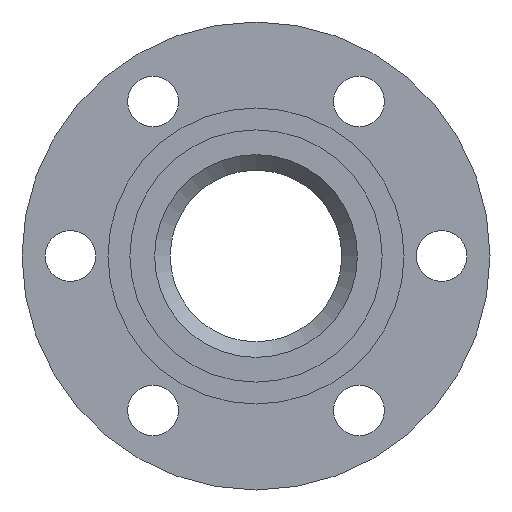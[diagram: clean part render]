
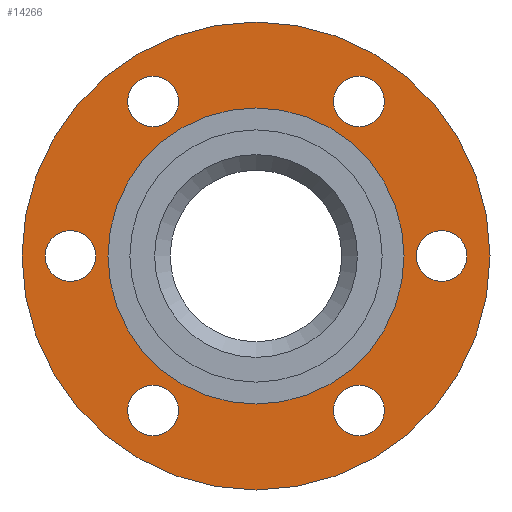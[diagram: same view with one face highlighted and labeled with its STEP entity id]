
A CAD part, front view. The second image highlights one B-rep face of the part: STEP entity #14266.
In plain terms, the highlighted planar face has unit normal (0, -1, 0).
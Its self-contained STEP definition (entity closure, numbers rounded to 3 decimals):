
#133=FACE_BOUND('',#5342,.T.);
#134=FACE_BOUND('',#5343,.T.);
#135=FACE_BOUND('',#5344,.T.);
#136=FACE_BOUND('',#5345,.T.);
#137=FACE_BOUND('',#5346,.T.);
#138=FACE_BOUND('',#5347,.T.);
#139=FACE_BOUND('',#5348,.T.);
#433=PLANE('',#14973);
#4492=FACE_OUTER_BOUND('',#5341,.T.);
#5341=EDGE_LOOP('',(#13352));
#5342=EDGE_LOOP('',(#13353));
#5343=EDGE_LOOP('',(#13354));
#5344=EDGE_LOOP('',(#13355));
#5345=EDGE_LOOP('',(#13356));
#5346=EDGE_LOOP('',(#13357));
#5347=EDGE_LOOP('',(#13358));
#5348=EDGE_LOOP('',(#13359));
#5658=CIRCLE('',#14931,3.25);
#5660=CIRCLE('',#14934,3.25);
#5662=CIRCLE('',#14937,3.25);
#5664=CIRCLE('',#14940,3.25);
#5666=CIRCLE('',#14943,3.25);
#5668=CIRCLE('',#14946,3.25);
#5671=CIRCLE('',#14950,30.);
#5682=CIRCLE('',#14972,18.975);
#7054=VERTEX_POINT('',#32420);
#7056=VERTEX_POINT('',#32426);
#7058=VERTEX_POINT('',#32432);
#7060=VERTEX_POINT('',#32438);
#7062=VERTEX_POINT('',#32444);
#7064=VERTEX_POINT('',#32450);
#7067=VERTEX_POINT('',#32458);
#7077=VERTEX_POINT('',#32495);
#9144=EDGE_CURVE('',#7054,#7054,#5658,.T.);
#9147=EDGE_CURVE('',#7056,#7056,#5660,.T.);
#9150=EDGE_CURVE('',#7058,#7058,#5662,.T.);
#9153=EDGE_CURVE('',#7060,#7060,#5664,.T.);
#9156=EDGE_CURVE('',#7062,#7062,#5666,.T.);
#9159=EDGE_CURVE('',#7064,#7064,#5668,.T.);
#9164=EDGE_CURVE('',#7067,#7067,#5671,.T.);
#9180=EDGE_CURVE('',#7077,#7077,#5682,.T.);
#13352=ORIENTED_EDGE('',*,*,#9164,.F.);
#13353=ORIENTED_EDGE('',*,*,#9144,.T.);
#13354=ORIENTED_EDGE('',*,*,#9147,.T.);
#13355=ORIENTED_EDGE('',*,*,#9150,.T.);
#13356=ORIENTED_EDGE('',*,*,#9153,.T.);
#13357=ORIENTED_EDGE('',*,*,#9156,.T.);
#13358=ORIENTED_EDGE('',*,*,#9159,.T.);
#13359=ORIENTED_EDGE('',*,*,#9180,.T.);
#14266=ADVANCED_FACE('',(#4492,#133,#134,#135,#136,#137,#138,#139),#433,
 .T.);
#14931=AXIS2_PLACEMENT_3D('',#32421,#17230,#17231);
#14934=AXIS2_PLACEMENT_3D('',#32427,#17237,#17238);
#14937=AXIS2_PLACEMENT_3D('',#32433,#17244,#17245);
#14940=AXIS2_PLACEMENT_3D('',#32439,#17251,#17252);
#14943=AXIS2_PLACEMENT_3D('',#32445,#17258,#17259);
#14946=AXIS2_PLACEMENT_3D('',#32451,#17265,#17266);
#14950=AXIS2_PLACEMENT_3D('',#32460,#17275,#17276);
#14972=AXIS2_PLACEMENT_3D('',#32497,#17324,#17325);
#14973=AXIS2_PLACEMENT_3D('',#32498,#17326,#17327);
#17230=DIRECTION('center_axis',(0.,1.,0.));
#17231=DIRECTION('ref_axis',(-1.,0.,0.));
#17237=DIRECTION('center_axis',(0.,1.,0.));
#17238=DIRECTION('ref_axis',(-1.,0.,0.));
#17244=DIRECTION('center_axis',(0.,1.,0.));
#17245=DIRECTION('ref_axis',(-1.,0.,0.));
#17251=DIRECTION('center_axis',(0.,1.,0.));
#17252=DIRECTION('ref_axis',(-1.,0.,0.));
#17258=DIRECTION('center_axis',(0.,1.,0.));
#17259=DIRECTION('ref_axis',(-1.,0.,0.));
#17265=DIRECTION('center_axis',(0.,1.,0.));
#17266=DIRECTION('ref_axis',(-1.,0.,0.));
#17275=DIRECTION('center_axis',(0.,1.,0.));
#17276=DIRECTION('ref_axis',(-1.,0.,0.));
#17324=DIRECTION('center_axis',(0.,1.,0.));
#17325=DIRECTION('ref_axis',(-1.,0.,0.));
#17326=DIRECTION('center_axis',(0.,-1.,0.));
#17327=DIRECTION('ref_axis',(0.,0.,
1.));
#32420=CARTESIAN_POINT('',(27.05,-28.,0.));
#32421=CARTESIAN_POINT('Origin',(23.8,-28.,0.));
#32426=CARTESIAN_POINT('',(-9.95,-28.,19.804));
#32427=CARTESIAN_POINT('Origin',(-13.2,-28.,19.804));
#32432=CARTESIAN_POINT('',(-9.95,-28.,-19.804));
#32433=CARTESIAN_POINT('Origin',(-13.2,-28.,-19.804));
#32438=CARTESIAN_POINT('',(-20.55,-28.,0.));
#32439=CARTESIAN_POINT('Origin',(-23.8,-28.,0.));
#32444=CARTESIAN_POINT('',(16.45,-28.,19.804));
#32445=CARTESIAN_POINT('Origin',(13.2,-28.,19.804));
#32450=CARTESIAN_POINT('',(16.45,-28.,-19.804));
#32451=CARTESIAN_POINT('Origin',(13.2,-28.,-19.804));
#32458=CARTESIAN_POINT('',(-30.,-28.,0.));
#32460=CARTESIAN_POINT('Origin',(0.,-28.,0.));
#32495=CARTESIAN_POINT('',(-18.975,-28.,0.));
#32497=CARTESIAN_POINT('Origin',(0.,-28.,0.));
#32498=CARTESIAN_POINT('Origin',(30.,-28.,0.));
